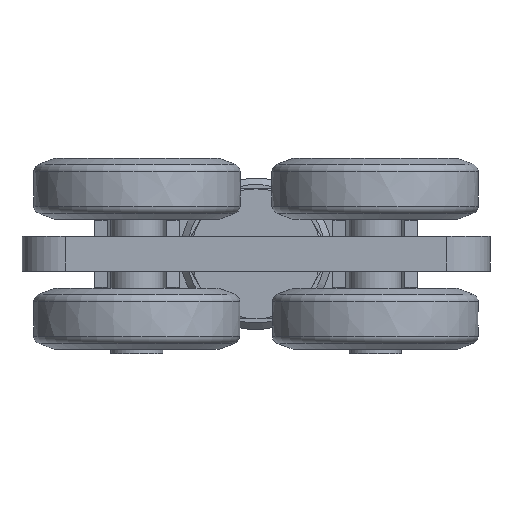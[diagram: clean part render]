
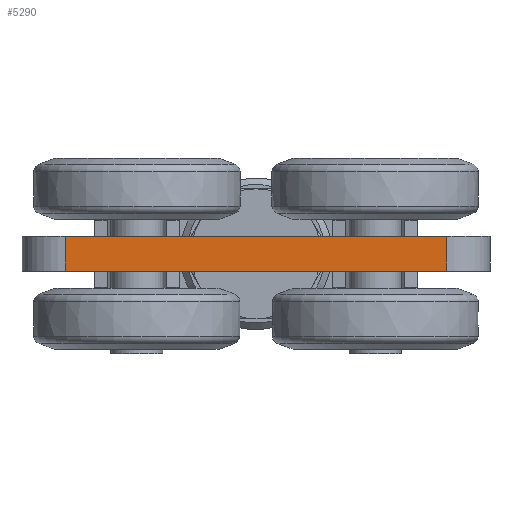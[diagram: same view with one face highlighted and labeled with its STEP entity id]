
A CAD part, front view. The second image highlights one B-rep face of the part: STEP entity #5290.
In plain terms, the highlighted planar face has unit normal (0, -1, 0) as drawn and (0, 1, 0) by its records, which use the part's own axes.
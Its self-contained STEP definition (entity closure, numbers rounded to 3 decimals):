
#546=FACE_OUTER_BOUND('',#875,.T.);
#875=EDGE_LOOP('',(#3800,#3801,#3802,#3803));
#1570=LINE('',#8027,#1952);
#1620=LINE('',#8173,#2002);
#1621=LINE('',#8177,#2003);
#1622=LINE('',#8178,#2004);
#1952=VECTOR('',#6348,88.);
#2002=VECTOR('',#6502,8.);
#2003=VECTOR('',#6507,8.);
#2004=VECTOR('',#6508,88.);
#2343=VERTEX_POINT('',#8024);
#2344=VERTEX_POINT('',#8026);
#2388=VERTEX_POINT('',#8172);
#2389=VERTEX_POINT('',#8176);
#2879=EDGE_CURVE('',#2344,#2343,#1570,.T.);
#2951=EDGE_CURVE('',#2388,#2344,#1620,.T.);
#2953=EDGE_CURVE('',#2389,#2343,#1621,.T.);
#2954=EDGE_CURVE('',#2389,#2388,#1622,.T.);
#3800=ORIENTED_EDGE('',*,*,#2879,.T.);
#3801=ORIENTED_EDGE('',*,*,#2953,.F.);
#3802=ORIENTED_EDGE('',*,*,#2954,.T.);
#3803=ORIENTED_EDGE('',*,*,#2951,.T.);
#5116=PLANE('',#5674);
#5290=ADVANCED_FACE('',(#546),#5116,.T.);
#5674=AXIS2_PLACEMENT_3D('',#8175,#6505,#6506);
#6348=DIRECTION('',(1.,0.,0.));
#6502=DIRECTION('',(0.,0.,1.));
#6505=DIRECTION('center_axis',(0.,1.,0.));
#6506=DIRECTION('ref_axis',(0.,0.,1.));
#6507=DIRECTION('',(0.,0.,1.));
#6508=DIRECTION('',(-1.,0.,0.));
#8024=CARTESIAN_POINT('',(44.,23.,8.));
#8026=CARTESIAN_POINT('',(-44.,23.,8.));
#8027=CARTESIAN_POINT('',(44.,23.,8.));
#8172=CARTESIAN_POINT('',(-44.,23.,0.));
#8173=CARTESIAN_POINT('',(-44.,23.,0.));
#8175=CARTESIAN_POINT('Origin',(-44.,23.,0.));
#8176=CARTESIAN_POINT('',(44.,23.,0.));
#8177=CARTESIAN_POINT('',(44.,23.,0.));
#8178=CARTESIAN_POINT('',(44.,23.,0.));
